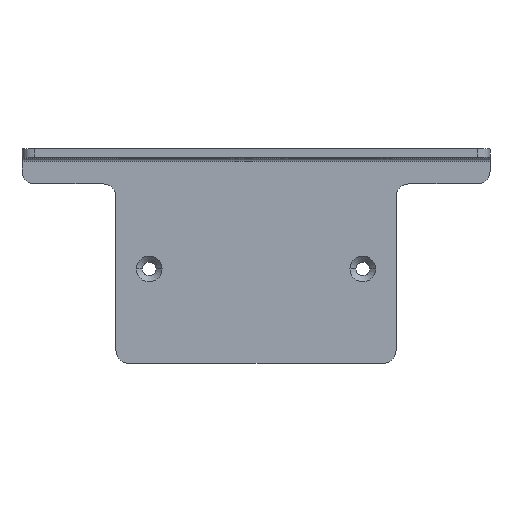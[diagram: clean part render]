
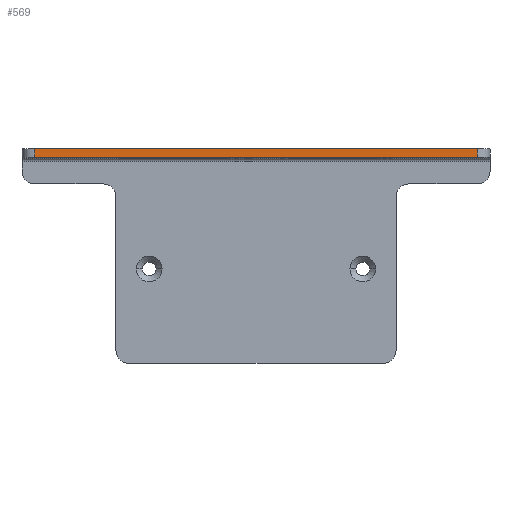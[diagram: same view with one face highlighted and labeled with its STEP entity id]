
A CAD part, top view. The second image highlights one B-rep face of the part: STEP entity #569.
In plain terms, the highlighted planar face has unit normal (0, 0, 1).
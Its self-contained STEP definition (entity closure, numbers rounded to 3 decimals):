
#36 = VECTOR ( 'NONE', #1245, 1000. ) ;
#310 = DIRECTION ( 'NONE',  ( 0., 1., 0. ) ) ;
#546 = LINE ( 'NONE', #2987, #2652 ) ;
#548 = CARTESIAN_POINT ( 'NONE',  ( 106.6, -2., 0. ) ) ;
#550 = CARTESIAN_POINT ( 'NONE',  ( 3., 0., 0. ) ) ;
#569 = ADVANCED_FACE ( 'NONE', ( #3759 ), #3740, .T. ) ;
#667 = ORIENTED_EDGE ( 'NONE', *, *, #3621, .F. ) ;
#713 = CARTESIAN_POINT ( 'NONE',  ( 106.6, 0., 0. ) ) ;
#739 = DIRECTION ( 'NONE',  ( 0., 0., 1. ) ) ;
#810 = ORIENTED_EDGE ( 'NONE', *, *, #3306, .T. ) ;
#1069 = VERTEX_POINT ( 'NONE', #3815 ) ;
#1245 = DIRECTION ( 'NONE',  ( 0., -1., 0. ) ) ;
#1332 = EDGE_CURVE ( 'NONE', #1069, #1780, #1875, .T. ) ;
#1349 = ORIENTED_EDGE ( 'NONE', *, *, #1332, .T. ) ;
#1513 = EDGE_CURVE ( 'NONE', #2380, #1069, #1715, .T. ) ;
#1715 = LINE ( 'NONE', #3016, #36 ) ;
#1780 = VERTEX_POINT ( 'NONE', #548 ) ;
#1875 = LINE ( 'NONE', #2198, #3899 ) ;
#1913 = CARTESIAN_POINT ( 'NONE',  ( 0., 0., 0. ) ) ;
#2009 = VECTOR ( 'NONE', #310, 1000. ) ;
#2021 = ORIENTED_EDGE ( 'NONE', *, *, #1513, .T. ) ;
#2051 = DIRECTION ( 'NONE',  ( 1., 0., 0. ) ) ;
#2099 = CARTESIAN_POINT ( 'NONE',  ( 106.6, 0., 0. ) ) ;
#2198 = CARTESIAN_POINT ( 'NONE',  ( 0., -2., 0. ) ) ;
#2278 = DIRECTION ( 'NONE',  ( 1., 0., 0. ) ) ;
#2380 = VERTEX_POINT ( 'NONE', #550 ) ;
#2616 = VERTEX_POINT ( 'NONE', #713 ) ;
#2652 = VECTOR ( 'NONE', #2051, 1000. ) ;
#2685 = LINE ( 'NONE', #2099, #2009 ) ;
#2987 = CARTESIAN_POINT ( 'NONE',  ( 0., 0., 0. ) ) ;
#3016 = CARTESIAN_POINT ( 'NONE',  ( 3., 0., 0. ) ) ;
#3252 = AXIS2_PLACEMENT_3D ( 'NONE', #1913, #739, #2278 ) ;
#3306 = EDGE_CURVE ( 'NONE', #1780, #2616, #2685, .T. ) ;
#3358 = EDGE_LOOP ( 'NONE', ( #667, #2021, #1349, #810 ) ) ;
#3391 = DIRECTION ( 'NONE',  ( 1., 0., 0. ) ) ;
#3621 = EDGE_CURVE ( 'NONE', #2380, #2616, #546, .T. ) ;
#3740 = PLANE ( 'NONE',  #3252 ) ;
#3759 = FACE_OUTER_BOUND ( 'NONE', #3358, .T. ) ;
#3815 = CARTESIAN_POINT ( 'NONE',  ( 3., -2., 0. ) ) ;
#3899 = VECTOR ( 'NONE', #3391, 1000. ) ;
